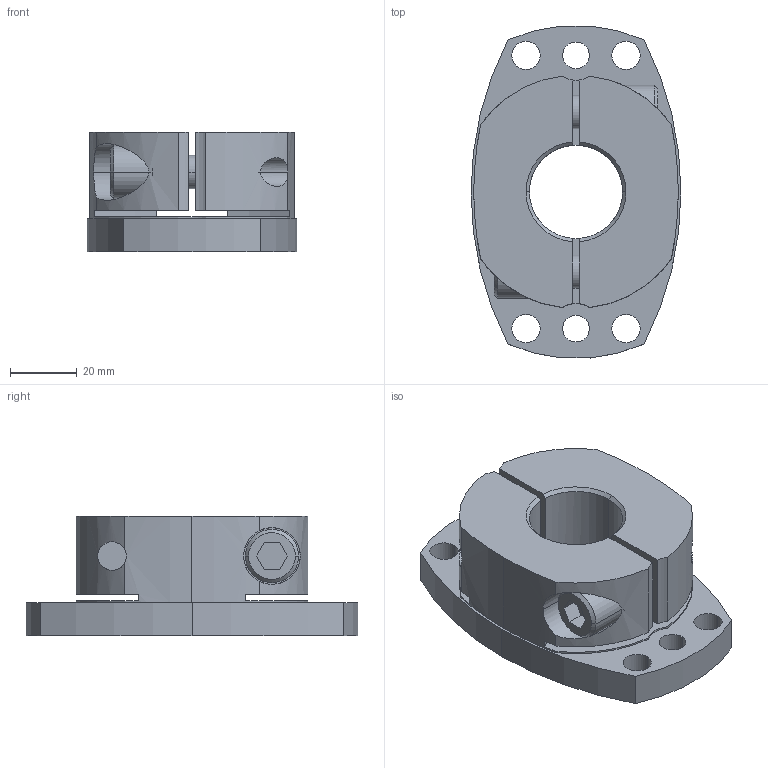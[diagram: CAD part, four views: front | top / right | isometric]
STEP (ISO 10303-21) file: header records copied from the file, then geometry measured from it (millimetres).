
FILE_DESCRIPTION((''),'2;1');
FILE_NAME('SHDB-100B-28.stp','2026-01-28T08:40:48',(''),(''),'AutoCAD STEP 2000i','AutoCAD 2000i',', , ');
FILE_SCHEMA(('CONFIG_CONTROL_DESIGN'));
Length unit declared in the file: millimetre
Products named in the file (2): SHDB-100B-28; 忣兜1
Assembly tree (1 placements, depth 2):
  SHDB-100B-28
    忣兜1
Bounding box: 63 x 99.64 x 36 mm (x, y, z)
Volume: 113395.4 mm3; surface area: 29920.3 mm2
Topology: 1 solids, 1 shells, 102 faces, 280 edges, 184 vertices
Faces by surface type: cylinder 58, plane 34, cone 10
Entity records: 3683 total; most frequent: CARTESIAN_POINT 856, DIRECTION 602, ORIENTED_EDGE 560, EDGE_CURVE 280, AXIS2_PLACEMENT_3D 238, VERTEX_POINT 184, CIRCLE 134, VECTOR 126
